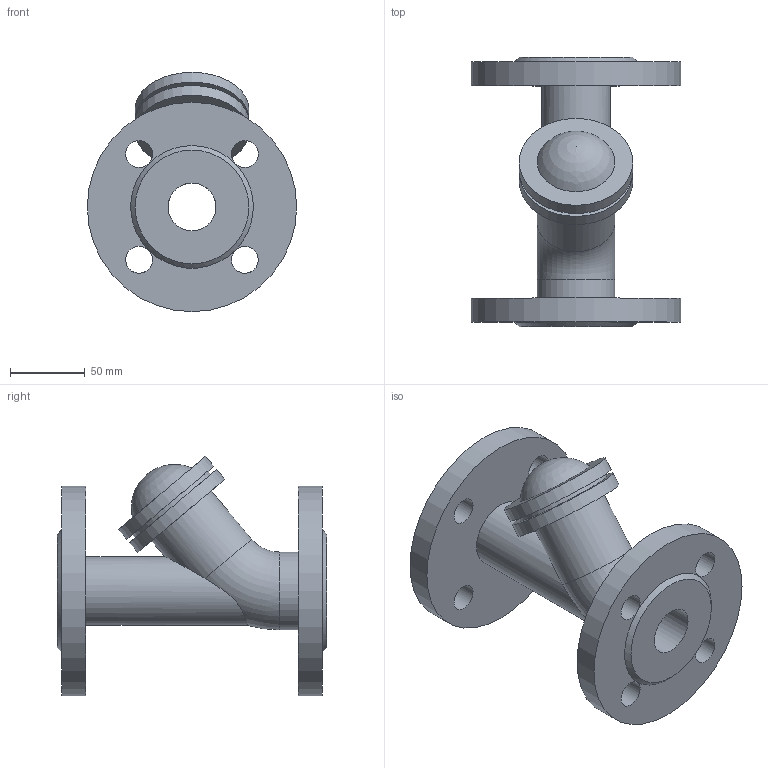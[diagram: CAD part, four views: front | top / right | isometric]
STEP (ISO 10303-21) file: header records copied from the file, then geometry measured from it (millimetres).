
FILE_DESCRIPTION(('STEP AP203'), '1');
FILE_NAME('Êëàïàí îáðàòíûé øàðîâîé ôëàíöåâûé 012F DN32', '', ('UNSPECIFIED'), ('UNSPECIFIED'), 'ASCON STEP Converter 1.6', 'ASCON Math Kernel', '');
FILE_SCHEMA(('CONFIG_CONTROL_DESIGN'));
Length unit declared in the file: millimetre
Bounding box: 140 x 180 x 160 mm (x, y, z)
Volume: 750739.6 mm3; surface area: 137081.1 mm2
Topology: 1 solids, 1 shells, 36 faces, 86 edges, 56 vertices
Faces by surface type: cylinder 19, plane 12, torus 2, cone 2, sphere 1
Full cylindrical faces by diameter (mm): 18 x8, 32 x2, 46 x1, 52 x2, 66 x1, 76 x2, 140 x2
Entity records: 1646 total; most frequent: CARTESIAN_POINT 507, DIRECTION 180, ORIENTED_EDGE 124, AXIS2_PLACEMENT_3D 90, EDGE_LOOP 85, EDGE_CURVE 62, VERTEX_POINT 55, CIRCLE 53
